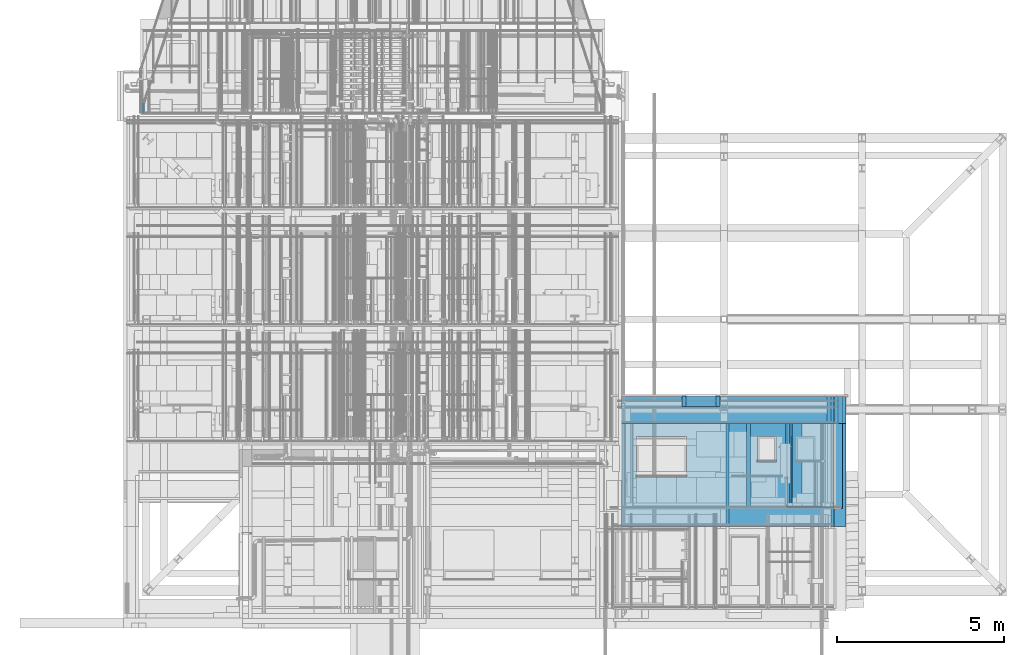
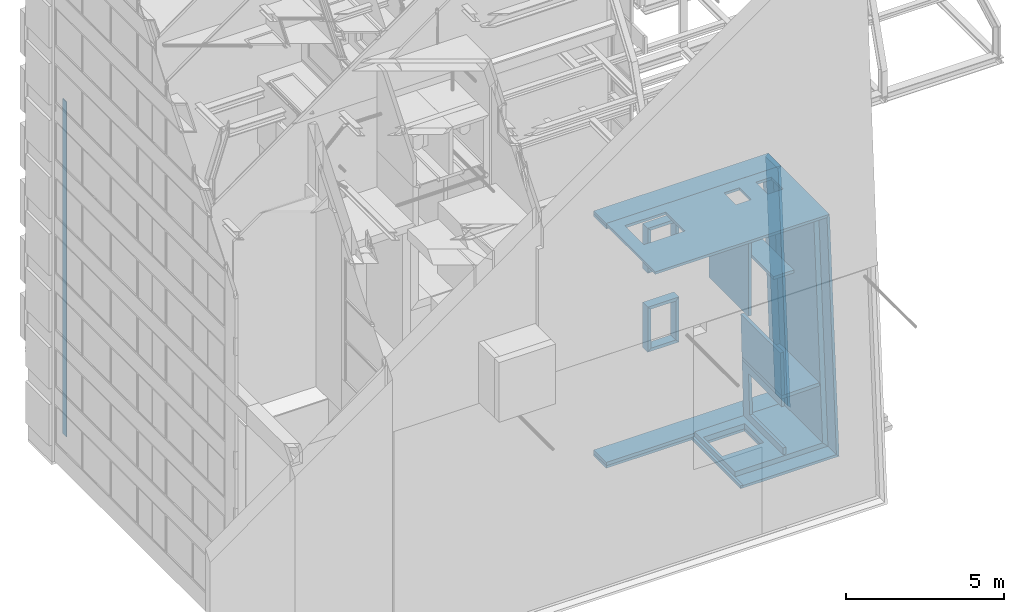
# One storey, part 20 of 583: 26 walls, 7 openings.
"""IFC2X3 building model written with IfcOpenShell, lengths in metres."""

from ifc_helpers import new_model, entity, si_unit, converted_unit, derived_unit, money_unit, direction, frame, frame_2d, origin_with_axes, place, context, subcontext, project, spatial, polyline, rectangle, outline, extrude, material, type_object, element, save


model = new_model("IFC2X3")

# Units and contexts
model_context = context("Model", 3, precision=1e-05, world=origin_with_axes(), true_north=direction((0.0, 1.0)))
body_context = subcontext(model_context, "Body", "Model", "MODEL_VIEW", scale=1.0)
ifc_project = project(units=[si_unit("LENGTHUNIT", "METRE"), si_unit("AREAUNIT", "SQUARE_METRE"), si_unit("VOLUMEUNIT", "CUBIC_METRE"), si_unit("ABSORBEDDOSEUNIT", "GRAY"), si_unit("AMOUNTOFSUBSTANCEUNIT", "MOLE"), si_unit("DOSEEQUIVALENTUNIT", "SIEVERT"), si_unit("ELECTRICCAPACITANCEUNIT", "FARAD"), si_unit("ELECTRICCHARGEUNIT", "COULOMB"), si_unit("ELECTRICCONDUCTANCEUNIT", "SIEMENS"), si_unit("ELECTRICCURRENTUNIT", "AMPERE"), si_unit("ELECTRICRESISTANCEUNIT", "OHM"), si_unit("ELECTRICVOLTAGEUNIT", "VOLT"), si_unit("ENERGYUNIT", "JOULE"), si_unit("FORCEUNIT", "NEWTON"), si_unit("FREQUENCYUNIT", "HERTZ"), si_unit("ILLUMINANCEUNIT", "LUX"), si_unit("INDUCTANCEUNIT", "HENRY"), si_unit("LUMINOUSFLUXUNIT", "LUMEN"), si_unit("LUMINOUSINTENSITYUNIT", "CANDELA"), si_unit("MAGNETICFLUXDENSITYUNIT", "TESLA"), si_unit("MAGNETICFLUXUNIT", "WEBER"), si_unit("MASSUNIT", "GRAM"), converted_unit("PLANEANGLEUNIT", "degree", entity("IfcReal", 0.0174532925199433), si_unit("PLANEANGLEUNIT", "RADIAN"), dimensions=[0, 0, 0, 0, 0, 0, 0]), si_unit("POWERUNIT", "WATT"), si_unit("PRESSUREUNIT", "PASCAL"), si_unit("RADIOACTIVITYUNIT", "BECQUEREL"), si_unit("SOLIDANGLEUNIT", "STERADIAN"), si_unit("THERMODYNAMICTEMPERATUREUNIT", "KELVIN"), si_unit("TIMEUNIT", "SECOND"), derived_unit("ACCELERATIONUNIT", [(si_unit("LENGTHUNIT", "METRE"), 1), (si_unit("TIMEUNIT", "SECOND"), -2)]), derived_unit("ANGULARVELOCITYUNIT", [(converted_unit("PLANEANGLEUNIT", "degree", entity("IfcReal", 0.0174532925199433), si_unit("PLANEANGLEUNIT", "RADIAN"), dimensions=[0, 0, 0, 0, 0, 0, 0]), 1), (si_unit("TIMEUNIT", "SECOND"), -1)]), derived_unit("CURVATUREUNIT", [(converted_unit("PLANEANGLEUNIT", "degree", entity("IfcReal", 0.0174532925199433), si_unit("PLANEANGLEUNIT", "RADIAN"), dimensions=[0, 0, 0, 0, 0, 0, 0]), 1), (si_unit("LENGTHUNIT", "METRE"), -1)]), derived_unit("DYNAMICVISCOSITYUNIT", [(si_unit("PRESSUREUNIT", "PASCAL"), 1), (si_unit("TIMEUNIT", "SECOND"), 1)]), derived_unit("HEATFLUXDENSITYUNIT", [(si_unit("POWERUNIT", "WATT"), 1), (si_unit("LENGTHUNIT", "METRE"), -2)]), derived_unit("HEATINGVALUEUNIT", [(si_unit("ENERGYUNIT", "JOULE"), 1), (si_unit("MASSUNIT", "GRAM"), -1)]), derived_unit("INTEGERCOUNTRATEUNIT", [(si_unit("TIMEUNIT", "SECOND"), -1)]), derived_unit("IONCONCENTRATIONUNIT", [(si_unit("MASSUNIT", "GRAM"), 1), (si_unit("VOLUMEUNIT", "CUBIC_METRE"), -1)]), derived_unit("ISOTHERMALMOISTURECAPACITYUNIT", [(si_unit("VOLUMEUNIT", "CUBIC_METRE"), 1), (si_unit("MASSUNIT", "GRAM"), -1)]), derived_unit("KINEMATICVISCOSITYUNIT", [(si_unit("AREAUNIT", "SQUARE_METRE"), 1), (si_unit("TIMEUNIT", "SECOND"), -1)]), derived_unit("LINEARFORCEUNIT", [(si_unit("FORCEUNIT", "NEWTON"), 1), (si_unit("LENGTHUNIT", "METRE"), -1)]), derived_unit("LINEARMOMENTUNIT", [(si_unit("FORCEUNIT", "NEWTON"), 1), (si_unit("LENGTHUNIT", "METRE"), -1)]), derived_unit("LINEARSTIFFNESSUNIT", [(si_unit("FORCEUNIT", "NEWTON"), 1), (si_unit("LENGTHUNIT", "METRE"), -1)]), derived_unit("LINEARVELOCITYUNIT", [(si_unit("LENGTHUNIT", "METRE"), 1), (si_unit("TIMEUNIT", "SECOND"), -1)]), derived_unit("LUMINOUSINTENSITYDISTRIBUTIONUNIT", [(si_unit("LUMINOUSINTENSITYUNIT", "CANDELA"), 1), (si_unit("LUMINOUSFLUXUNIT", "LUMEN"), -1)]), derived_unit("MASSDENSITYUNIT", [(si_unit("MASSUNIT", "GRAM"), 1), (si_unit("VOLUMEUNIT", "CUBIC_METRE"), -1)]), derived_unit("MASSFLOWRATEUNIT", [(si_unit("MASSUNIT", "GRAM"), 1), (si_unit("TIMEUNIT", "SECOND"), -1)]), derived_unit("MASSPERLENGTHUNIT", [(si_unit("MASSUNIT", "GRAM"), 1), (si_unit("LENGTHUNIT", "METRE"), -1)]), derived_unit("MODULUSOFELASTICITYUNIT", [(si_unit("FORCEUNIT", "NEWTON"), 1), (si_unit("AREAUNIT", "SQUARE_METRE"), -1)]), derived_unit("MODULUSOFLINEARSUBGRADEREACTIONUNIT", [(si_unit("FORCEUNIT", "NEWTON"), 1), (si_unit("LENGTHUNIT", "METRE"), -2)]), derived_unit("MODULUSOFROTATIONALSUBGRADEREACTIONUNIT", [(si_unit("FORCEUNIT", "NEWTON"), 1), (si_unit("LENGTHUNIT", "METRE"), 1)]), derived_unit("MODULUSOFSUBGRADEREACTIONUNIT", [(si_unit("FORCEUNIT", "NEWTON"), 1), (si_unit("VOLUMEUNIT", "CUBIC_METRE"), -1)]), derived_unit("MOISTUREDIFFUSIVITYUNIT", [(si_unit("VOLUMEUNIT", "CUBIC_METRE"), 1), (si_unit("TIMEUNIT", "SECOND"), -1)]), derived_unit("MOLECULARWEIGHTUNIT", [(si_unit("MASSUNIT", "GRAM"), 1), (si_unit("AMOUNTOFSUBSTANCEUNIT", "MOLE"), -1)]), derived_unit("PLANARFORCEUNIT", [(si_unit("FORCEUNIT", "NEWTON"), 1), (si_unit("LENGTHUNIT", "METRE"), -2)]), derived_unit("ROTATIONALFREQUENCYUNIT", [(si_unit("TIMEUNIT", "SECOND"), -1)]), derived_unit("ROTATIONALMASSUNIT", [(si_unit("MASSUNIT", "GRAM"), 1), (si_unit("LENGTHUNIT", "METRE"), 2)]), derived_unit("ROTATIONALSTIFFNESSUNIT", [(si_unit("FORCEUNIT", "NEWTON"), 1), (si_unit("LENGTHUNIT", "METRE"), 1), (converted_unit("PLANEANGLEUNIT", "degree", entity("IfcReal", 0.0174532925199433), si_unit("PLANEANGLEUNIT", "RADIAN"), dimensions=[0, 0, 0, 0, 0, 0, 0]), -1)]), derived_unit("SECTIONAREAINTEGRALUNIT", [(si_unit("LENGTHUNIT", "METRE"), 5)]), derived_unit("SECTIONMODULUSUNIT", [(si_unit("LENGTHUNIT", "METRE"), 3)]), derived_unit("SHEARMODULUSUNIT", [(si_unit("FORCEUNIT", "NEWTON"), 1), (si_unit("AREAUNIT", "SQUARE_METRE"), -1)]), derived_unit("SOUNDPOWERUNIT", [(si_unit("ENERGYUNIT", "JOULE"), 1), (si_unit("TIMEUNIT", "SECOND"), -1)]), derived_unit("SPECIFICHEATCAPACITYUNIT", [(si_unit("FORCEUNIT", "NEWTON"), 1), (si_unit("MASSUNIT", "GRAM"), -1), (si_unit("THERMODYNAMICTEMPERATUREUNIT", "KELVIN"), -1)]), derived_unit("TEMPERATUREGRADIENTUNIT", [(si_unit("THERMODYNAMICTEMPERATUREUNIT", "KELVIN"), 1), (si_unit("LENGTHUNIT", "METRE"), -1)]), derived_unit("THERMALADMITTANCEUNIT", [(si_unit("POWERUNIT", "WATT"), 1), (si_unit("AREAUNIT", "SQUARE_METRE"), -1), (si_unit("THERMODYNAMICTEMPERATUREUNIT", "KELVIN"), -1)]), derived_unit("THERMALCONDUCTANCEUNIT", [(si_unit("POWERUNIT", "WATT"), 1), (si_unit("LENGTHUNIT", "METRE"), -1), (si_unit("THERMODYNAMICTEMPERATUREUNIT", "KELVIN"), -1)]), derived_unit("THERMALEXPANSIONCOEFFICIENTUNIT", [(si_unit("THERMODYNAMICTEMPERATUREUNIT", "KELVIN"), -1)]), derived_unit("THERMALRESISTANCEUNIT", [(si_unit("AREAUNIT", "SQUARE_METRE"), 1), (si_unit("POWERUNIT", "WATT"), -1)]), derived_unit("THERMALTRANSMITTANCEUNIT", [(si_unit("POWERUNIT", "WATT"), 1), (si_unit("AREAUNIT", "SQUARE_METRE"), -1), (si_unit("THERMODYNAMICTEMPERATUREUNIT", "KELVIN"), -1)]), derived_unit("TORQUEUNIT", [(si_unit("FORCEUNIT", "NEWTON"), 1), (si_unit("LENGTHUNIT", "METRE"), 1)]), derived_unit("VAPORPERMEABILITYUNIT", [(si_unit("MASSUNIT", "GRAM"), 1), (si_unit("TIMEUNIT", "SECOND"), -1)]), derived_unit("VOLUMETRICFLOWRATEUNIT", [(si_unit("VOLUMEUNIT", "CUBIC_METRE"), 1), (si_unit("TIMEUNIT", "SECOND"), -1)]), derived_unit("WARPINGCONSTANTUNIT", [(si_unit("LENGTHUNIT", "METRE"), 6)]), derived_unit("WARPINGMOMENTUNIT", [(si_unit("FORCEUNIT", "NEWTON"), 1), (si_unit("LENGTHUNIT", "METRE"), 2)]), money_unit("GBP")], contexts=[model_context])

# Site, building, storey
site_placement = place(None, origin_with_axes())
site = spatial("IfcSite", under=ifc_project, at=site_placement, Name="Site", CompositionType="ELEMENT")
building_placement = place(site_placement, origin_with_axes())
building = spatial("IfcBuilding", under=site, at=building_placement, Name="Building01", CompositionType="ELEMENT")
storey_placement = place(building_placement, frame((0.0, 0.0, 20.78), z_axis=(0.0, 0.0, 1.0), x_axis=(1.0, 0.0, 0.0)))
storey = spatial("IfcBuildingStorey", under=building, at=storey_placement, Name="RL", CompositionType="ELEMENT", Elevation=20.78)

# Wall
ifc_material_1 = material(Name="A_BSUK_WallsExternal_Brick")
wall_type_1 = type_object("IfcWallType", Name="A-Walls-ExternalBrick", PredefinedType="NOTDEFINED")
wall_1_placement = place(storey_placement, frame((21.262425, 2.6, -11.336962), z_axis=(0.0, 1.0, 0.0), x_axis=(0.03707243, 0.0, -0.99931258)))
element("IfcWall", 1, at=wall_1_placement, inside=storey, type_object=wall_type_1, material=ifc_material_1, Name="A-Walls-ExternalBrick", ObjectType="A-Walls-ExternalBrick", context=body_context, shape_type="SweptSolid", body=[
    extrude(outline(polyline([(9.359448, 0.1), (0.096359, 0.1), (0.0, 0.0), (9.463227, 0.0), (9.359448, 0.1)])), origin_with_axes(), (0.0, 0.0, 1.0), 3.085),
])

# Wall, opening
wall_2_placement = place(storey_placement, frame((21.61325, 2.6, -20.793684), z_axis=(0.0, 1.0, 0.0), x_axis=(-1.0, 0.0, 0.0)))
wall_2 = element("IfcWall", 2, at=wall_2_placement, inside=storey, type_object=wall_type_1, material=ifc_material_1, Name="A-Walls-ExternalBrick", ObjectType="A-Walls-ExternalBrick", context=body_context, shape_type="SweptSolid", body=[
    extrude(outline(polyline([(3.493021, 0.1), (0.103779, 0.1), (0.0, 0.0), (3.593021, 0.0), (3.493021, 0.1)])), origin_with_axes(), (0.0, 0.0, 1.0), 3.085),
])
opening_1_placement = place(wall_2_placement, frame((1.899002, 0.0, 1.485), z_axis=(0.0, 0.0, 1.0), x_axis=(1.0, 0.0, 0.0)))
element("IfcOpeningElement", 3, at=opening_1_placement, cuts=wall_2, Name="Opening", ObjectType="Opening", context=body_context, shape_type="SweptSolid", body=[
    extrude(rectangle(XDim=1.2, YDim=1.5, at=frame_2d((-0.75, 0.6), x_axis=(0.0, -1.0))), frame((0.0, 0.0, 0.0), z_axis=(0.0, 1.0, 0.0), x_axis=(-1.0, 0.0, 0.0)), (0.0, 0.0, 1.0), 0.1),
])

# Wall
wall_3_placement = place(storey_placement, frame((18.020229, 2.6, -20.793684), z_axis=(0.0, 1.0, 0.0), x_axis=(0.0, 0.0, 1.0)))
element("IfcWall", 4, at=wall_3_placement, inside=storey, type_object=wall_type_1, material=ifc_material_1, Name="A-Walls-ExternalBrick", ObjectType="A-Walls-ExternalBrick", context=body_context, shape_type="SweptSolid", body=[
    extrude(outline(polyline([(0.114362, 0.1), (0.1, 0.1), (0.0, 0.0), (0.114362, 0.0), (0.114362, 0.1)])), origin_with_axes(), (0.0, 0.0, 1.0), 3.085),
])

# Wall, openings
wall_4_placement = place(storey_placement, frame((21.166066, 2.6, -11.436962), z_axis=(0.0, 1.0, 0.0), x_axis=(-1.0, 0.0, 0.0)))
wall_4 = element("IfcWall", 5, at=wall_4_placement, inside=storey, type_object=wall_type_1, material=ifc_material_1, Name="A-Walls-ExternalBrick", ObjectType="A-Walls-ExternalBrick", context=body_context, shape_type="SweptSolid", body=[
    extrude(outline(polyline([(6.265024, 0.1), (-0.096359, 0.1), (0.0, 0.0), (6.265024, 0.0), (6.265024, 0.1)])), origin_with_axes(), (0.0, 0.0, 1.0), 3.085),
])
opening_2_placement = place(wall_4_placement, frame((4.323276, 0.1, 1.485), z_axis=(0.0, 0.0, 1.0), x_axis=(1.0, 0.0, 0.0)))
element("IfcOpeningElement", 6, at=opening_2_placement, cuts=wall_4, Name="Opening", ObjectType="Opening", context=body_context, shape_type="SweptSolid", body=[
    extrude(rectangle(XDim=1.2, YDim=1.5, at=frame_2d((0.75, 0.6), x_axis=(0.0, -1.0))), frame((0.0, 0.0, 0.0), z_axis=(0.0, -1.0, 0.0), x_axis=(1.0, 0.0, 0.0)), (0.0, 0.0, 1.0), 0.1),
])
opening_3_placement = place(wall_4_placement, frame((1.643772, 0.1, 1.935), z_axis=(0.0, 0.0, 1.0), x_axis=(1.0, 0.0, 0.0)))
element("IfcOpeningElement", 7, at=opening_3_placement, cuts=wall_4, Name="Opening", ObjectType="Opening", context=body_context, shape_type="SweptSolid", body=[
    extrude(rectangle(XDim=0.75, YDim=0.56, at=frame_2d((0.28, 0.375), x_axis=(0.0, -1.0))), frame((0.0, 0.0, 0.0), z_axis=(0.0, -1.0, 0.0), x_axis=(1.0, 0.0, 0.0)), (0.0, 0.0, 1.0), 0.1),
])
opening_4_placement = place(wall_4_placement, frame((0.482163, 0.1, 1.935), z_axis=(0.0, 0.0, 1.0), x_axis=(1.0, 0.0, 0.0)))
element("IfcOpeningElement", 8, at=opening_4_placement, cuts=wall_4, Name="Opening", ObjectType="Opening", context=body_context, shape_type="SweptSolid", body=[
    extrude(rectangle(XDim=0.75, YDim=0.56, at=frame_2d((0.28, 0.375), x_axis=(0.0, -1.0))), frame((0.0, 0.0, 0.0), z_axis=(0.0, -1.0, 0.0), x_axis=(1.0, 0.0, 0.0)), (0.0, 0.0, 1.0), 0.1),
])

# Walls
wall_5_placement = place(storey_placement, frame((14.898004, 5.685, -20.679373), z_axis=(0.0, 1.0, 0.0), x_axis=(1.0, 0.0, 0.0)))
element("IfcWall", 9, at=wall_5_placement, inside=storey, type_object=wall_type_1, material=ifc_material_1, Name="A-Walls-ExternalBrick", ObjectType="A-Walls-ExternalBrick", context=body_context, shape_type="SweptSolid", body=[
    extrude(outline(polyline([(6.714638, 0.1), (0.0, 0.1), (0.0, 0.0), (6.61086, 0.0), (6.714638, 0.1)])), origin_with_axes(), (0.0, 0.0, 1.0), 0.8),
])
wall_6_placement = place(storey_placement, frame((21.508863, 5.685, -20.679373), z_axis=(0.0, 1.0, 0.0), x_axis=(-0.03707143, 0.0, 0.99931262)))
element("IfcWall", 10, at=wall_6_placement, inside=storey, type_object=wall_type_1, material=ifc_material_1, Name="A-Walls-ExternalBrick", ObjectType="A-Walls-ExternalBrick", context=body_context, shape_type="SweptSolid", body=[
    extrude(outline(polyline([(9.345366, 0.1), (-0.103778, 0.1), (0.0, 0.0), (9.249004, 0.0), (9.345366, 0.1)])), origin_with_axes(), (0.0, 0.0, 1.0), 0.8),
])
wall_7_placement = place(storey_placement, frame((21.16599, 5.685, -11.436727), z_axis=(0.0, 1.0, 0.0), x_axis=(-1.0, 0.0, -3.756e-05)))
element("IfcWall", 11, at=wall_7_placement, inside=storey, type_object=wall_type_1, material=ifc_material_1, Name="A-Walls-ExternalBrick", ObjectType="A-Walls-ExternalBrick", context=body_context, shape_type="SweptSolid", body=[
    extrude(outline(polyline([(-0.096363, 0.1), (0.0, 0.0), (6.268329, 0.0), (6.268329, 0.1), (-0.096363, 0.1)])), origin_with_axes(), (0.0, 0.0, 1.0), 0.8),
])
ifc_material_2 = material(Name="A_BSUK_WallsExternal_Block")
wall_type_2 = type_object("IfcWallType", Name="A-Walls-ExternalBlock", PredefinedType="NOTDEFINED")
wall_8_placement = place(storey_placement, frame((21.166058, 3.135, -11.436735), z_axis=(0.0, 1.0, 0.0), x_axis=(0.03707243, 0.0, -0.99931258)))
element("IfcWall", 12, at=wall_8_placement, inside=storey, type_object=wall_type_2, material=ifc_material_2, Name="A-Walls-ExternalBlock", ObjectType="A-Walls-ExternalBlock", context=body_context, shape_type="SweptSolid", body=[
    extrude(outline(polyline([(9.061665, 0.187), (0.182193, 0.187), (0.0, 0.0), (9.263736, 0.0), (9.061665, 0.187)])), origin_with_axes(), (0.0, 0.0, 1.0), 2.55),
])

# Wall, opening
wall_9_placement = place(storey_placement, frame((18.120222, 3.135, -20.499103), z_axis=(0.0, 1.0, 0.0), x_axis=(1.0, 0.0, 0.0)))
wall_9 = element("IfcWall", 13, at=wall_9_placement, inside=storey, type_object=wall_type_2, material=ifc_material_2, Name="A-Walls-ExternalBlock", ObjectType="A-Walls-ExternalBlock", context=body_context, shape_type="SweptSolid", body=[
    extrude(outline(polyline([(3.389265, 0.195), (0.0, 0.195), (0.0, 0.0), (3.194902, 0.0), (3.389265, 0.195)])), origin_with_axes(), (0.0, 0.0, 1.0), 2.55),
])
opening_5_placement = place(wall_9_placement, frame((0.094026, 0.195, 0.95), z_axis=(0.0, 0.0, 1.0), x_axis=(1.0, 0.0, 0.0)))
element("IfcOpeningElement", 14, at=opening_5_placement, cuts=wall_9, Name="Opening", ObjectType="Opening", context=body_context, shape_type="SweptSolid", body=[
    extrude(rectangle(XDim=1.2, YDim=1.5, at=frame_2d((0.75, 0.6), x_axis=(0.0, -1.0))), frame((0.0, 0.0, 0.0), z_axis=(0.0, -1.0, 0.0), x_axis=(1.0, 0.0, 0.0)), (0.0, 0.0, 1.0), 0.195),
])

# Walls
wall_10_placement = place(storey_placement, frame((14.898004, 5.685, -20.554373), z_axis=(0.0, 1.0, 0.0), x_axis=(1.0, 0.0, 0.0)))
element("IfcWall", 15, at=wall_10_placement, inside=storey, type_object=wall_type_2, material=ifc_material_2, Name="A-Walls-ExternalBlock", ObjectType="A-Walls-ExternalBlock", context=body_context, shape_type="SweptSolid", body=[
    extrude(outline(polyline([(6.61086, 0.125), (0.0, 0.125), (0.0, 0.0), (6.481137, 0.0), (6.61086, 0.125)])), origin_with_axes(), (0.0, 0.0, 1.0), 0.8),
])
wall_11_placement = place(storey_placement, frame((21.37914, 5.685, -20.554373), z_axis=(0.0, 1.0, 0.0), x_axis=(-0.03707143, 0.0, 0.99931262)))
element("IfcWall", 16, at=wall_11_placement, inside=storey, type_object=wall_type_2, material=ifc_material_2, Name="A-Walls-ExternalBlock", ObjectType="A-Walls-ExternalBlock", context=body_context, shape_type="SweptSolid", body=[
    extrude(outline(polyline([(9.126502, 0.125), (-0.129723, 0.125), (0.0, 0.0), (9.006049, 0.0), (9.126502, 0.125)])), origin_with_axes(), (0.0, 0.0, 1.0), 0.8),
])
wall_12_placement = place(storey_placement, frame((21.045273, 5.685, -11.554514), z_axis=(0.0, 1.0, 0.0), x_axis=(-1.0, 0.0, -3.756e-05)))
element("IfcWall", 17, at=wall_12_placement, inside=storey, type_object=wall_type_2, material=ifc_material_2, Name="A-Walls-ExternalBlock", ObjectType="A-Walls-ExternalBlock", context=body_context, shape_type="SweptSolid", body=[
    extrude(outline(polyline([(-0.120453, 0.125), (0.0, 0.0), (6.147608, 0.0), (6.147608, 0.125), (-0.120453, 0.125)])), origin_with_axes(), (0.0, 0.0, 1.0), 0.8),
])
wall_13_placement = place(storey_placement, frame((16.82, 6.185, -17.122586), z_axis=(0.0, 1.0, 0.0), x_axis=(1.0, 0.0, 0.0)))
element("IfcWall", 18, at=wall_13_placement, inside=storey, type_object=wall_type_2, material=ifc_material_2, Name="A-Walls-ExternalBlock", ObjectType="A-Walls-ExternalBlock", context=body_context, shape_type="SweptSolid", body=[
    extrude(outline(polyline([(1.02, 0.12), (-0.12, 0.12), (0.0, 0.0), (0.9, 0.0), (1.02, 0.12)])), origin_with_axes(), (0.0, 0.0, 1.0), 0.325),
])
wall_14_placement = place(storey_placement, frame((17.72, 6.185, -17.122586), z_axis=(0.0, 1.0, 0.0), x_axis=(0.0, 0.0, 1.0)))
element("IfcWall", 19, at=wall_14_placement, inside=storey, type_object=wall_type_2, material=ifc_material_2, Name="A-Walls-ExternalBlock", ObjectType="A-Walls-ExternalBlock", context=body_context, shape_type="SweptSolid", body=[
    extrude(outline(polyline([(1.62, 0.12), (-0.12, 0.12), (0.0, 0.0), (1.5, 0.0), (1.62, 0.12)])), origin_with_axes(), (0.0, 0.0, 1.0), 0.325),
])
wall_15_placement = place(storey_placement, frame((17.72, 6.185, -15.622586), z_axis=(0.0, 1.0, 0.0), x_axis=(-1.0, 0.0, 0.0)))
element("IfcWall", 20, at=wall_15_placement, inside=storey, type_object=wall_type_2, material=ifc_material_2, Name="A-Walls-ExternalBlock", ObjectType="A-Walls-ExternalBlock", context=body_context, shape_type="SweptSolid", body=[
    extrude(outline(polyline([(1.02, 0.12), (-0.12, 0.12), (0.0, 0.0), (0.9, 0.0), (1.02, 0.12)])), origin_with_axes(), (0.0, 0.0, 1.0), 0.325),
])
wall_16_placement = place(storey_placement, frame((16.82, 6.185, -15.622586), z_axis=(0.0, 1.0, 0.0), x_axis=(0.0, 0.0, -1.0)))
element("IfcWall", 21, at=wall_16_placement, inside=storey, type_object=wall_type_2, material=ifc_material_2, Name="A-Walls-ExternalBlock", ObjectType="A-Walls-ExternalBlock", context=body_context, shape_type="SweptSolid", body=[
    extrude(outline(polyline([(1.62, 0.12), (-0.12, 0.12), (0.0, 0.0), (1.5, 0.0), (1.62, 0.12)])), origin_with_axes(), (0.0, 0.0, 1.0), 0.325),
])
wall_17_placement = place(storey_placement, frame((17.72, 6.185, -12.582586), z_axis=(0.0, 1.0, 0.0), x_axis=(-1.0, 0.0, 0.0)))
element("IfcWall", 22, at=wall_17_placement, inside=storey, type_object=wall_type_2, material=ifc_material_2, Name="A-Walls-ExternalBlock", ObjectType="A-Walls-ExternalBlock", context=body_context, shape_type="SweptSolid", body=[
    extrude(outline(polyline([(1.02, 0.12), (-0.12, 0.12), (0.0, 0.0), (0.9, 0.0), (1.02, 0.12)])), origin_with_axes(), (0.0, 0.0, 1.0), 0.325),
])
wall_18_placement = place(storey_placement, frame((16.82, 6.185, -12.582586), z_axis=(0.0, 1.0, 0.0), x_axis=(0.0, 0.0, -1.0)))
element("IfcWall", 23, at=wall_18_placement, inside=storey, type_object=wall_type_2, material=ifc_material_2, Name="A-Walls-ExternalBlock", ObjectType="A-Walls-ExternalBlock", context=body_context, shape_type="SweptSolid", body=[
    extrude(outline(polyline([(1.62, 0.12), (-0.12, 0.12), (0.0, 0.0), (1.5, 0.0), (1.62, 0.12)])), origin_with_axes(), (0.0, 0.0, 1.0), 0.325),
])
wall_19_placement = place(storey_placement, frame((16.82, 6.185, -14.082586), z_axis=(0.0, 1.0, 0.0), x_axis=(1.0, 0.0, 0.0)))
element("IfcWall", 24, at=wall_19_placement, inside=storey, type_object=wall_type_2, material=ifc_material_2, Name="A-Walls-ExternalBlock", ObjectType="A-Walls-ExternalBlock", context=body_context, shape_type="SweptSolid", body=[
    extrude(outline(polyline([(1.02, 0.12), (-0.12, 0.12), (0.0, 0.0), (0.9, 0.0), (1.02, 0.12)])), origin_with_axes(), (0.0, 0.0, 1.0), 0.325),
])
wall_20_placement = place(storey_placement, frame((17.72, 6.185, -14.082586), z_axis=(0.0, 1.0, 0.0), x_axis=(0.0, 0.0, 1.0)))
element("IfcWall", 25, at=wall_20_placement, inside=storey, type_object=wall_type_2, material=ifc_material_2, Name="A-Walls-ExternalBlock", ObjectType="A-Walls-ExternalBlock", context=body_context, shape_type="SweptSolid", body=[
    extrude(outline(polyline([(1.62, 0.12), (-0.12, 0.12), (0.0, 0.0), (1.5, 0.0), (1.62, 0.12)])), origin_with_axes(), (0.0, 0.0, 1.0), 0.325),
])
ifc_material_3 = material(Name="A_BSUK_WallsInternal")
wall_type_3 = type_object("IfcWallType", Name="A-Walls-Internal", PredefinedType="NOTDEFINED")
wall_21_placement = place(storey_placement, frame((21.233862, 3.185, -18.30863), z_axis=(0.0, 1.0, 0.0), x_axis=(-0.99990971, 0.0, -0.01343765)))
element("IfcWall", 26, at=wall_21_placement, inside=storey, type_object=wall_type_3, material=ifc_material_3, Name="A-Walls-Internal", ObjectType="A-Walls-Internal", context=body_context, shape_type="SweptSolid", body=[
    extrude(outline(polyline([(1.389679, 0.13), (0.003074, 0.13), (0.0, 0.0), (1.388094, 0.0), (1.389679, 0.13)])), origin_with_axes(), (0.0, 0.0, 1.0), 2.5),
])

# Wall, opening
wall_22_placement = place(storey_placement, frame((19.90157, 3.185, -20.499103), z_axis=(0.0, 1.0, 0.0), x_axis=(-0.02562735, 0.0, 0.99967157)))
wall_22 = element("IfcWall", 27, at=wall_22_placement, inside=storey, type_object=wall_type_3, material=ifc_material_3, Name="A-Walls-Internal", ObjectType="A-Walls-Internal", context=body_context, shape_type="SweptSolid", body=[
    extrude(outline(polyline([(2.171217, 0.108), (-0.002769, 0.108), (0.0, 0.0), (2.172534, 0.0), (2.171217, 0.108)])), origin_with_axes(), (0.0, 0.0, 1.0), 2.5),
])
opening_6_placement = place(wall_22_placement, frame((0.266957, 0.108, 0.0), z_axis=(0.0, 0.0, 1.0), x_axis=(1.0, 0.0, 0.0)))
element("IfcOpeningElement", 28, at=opening_6_placement, cuts=wall_22, Name="Opening", ObjectType="Opening", context=body_context, shape_type="SweptSolid", body=[
    extrude(rectangle(XDim=2.1, YDim=1.604005, at=frame_2d((0.802002, 1.05), x_axis=(0.0, -1.0))), frame((0.0, 0.0, 0.0), z_axis=(0.0, -1.0, 0.0), x_axis=(1.0, 0.0, 0.0)), (0.00237186, 0.0, 0.99999719), 0.108),
])

# Wall
wall_23_placement = place(storey_placement, frame((19.842562, 3.185, -18.197316), z_axis=(0.0, 1.0, 0.0), x_axis=(-0.02562735, 0.0, 0.99967157)))
element("IfcWall", 29, at=wall_23_placement, inside=storey, type_object=wall_type_3, material=ifc_material_3, Name="A-Walls-Internal", ObjectType="A-Walls-Internal", context=body_context, shape_type="SweptSolid", body=[
    extrude(outline(polyline([(-0.001463, 0.12), (0.0, 0.0), (1.657189, 0.0), (1.657189, 0.12), (-0.001463, 0.12)])), origin_with_axes(), (0.0, 0.0, 1.0), 2.5),
])

# Wall, opening
wall_24_placement = place(storey_placement, frame((18.752607, 3.185, -13.504034), z_axis=(0.0, 1.0, 0.0), x_axis=(0.99999629, 0.0, -0.00272299)))
wall_24 = element("IfcWall", 30, at=wall_24_placement, inside=storey, type_object=wall_type_3, material=ifc_material_3, Name="A-Walls-Internal", ObjectType="A-Walls-Internal", context=body_context, shape_type="SweptSolid", body=[
    extrude(outline(polyline([(0.000308, 0.113), (0.0, 0.0), (1.549119, 0.0), (1.549119, 0.113), (0.000308, 0.113)])), origin_with_axes(), (0.0, 0.0, 1.0), 2.5),
])
opening_7_placement = place(wall_24_placement, frame((-0.01419, 0.113, 0.0), z_axis=(0.0, 0.0, 1.0), x_axis=(1.0, 0.0, 0.0)))
element("IfcOpeningElement", 31, at=opening_7_placement, cuts=wall_24, Name="Opening", ObjectType="Opening", context=body_context, shape_type="SweptSolid", body=[
    extrude(rectangle(XDim=2.1, YDim=0.814003, at=frame_2d((0.407002, 1.05), x_axis=(0.0, -1.0))), frame((0.0, 0.0, 0.0), z_axis=(0.0, -1.0, 0.0), x_axis=(1.0, 0.0, 0.0)), (-0.00272299, 0.0, 0.99999629), 0.113),
])

# Walls
wall_25_placement = place(storey_placement, frame((18.639607, 3.185, -14.71757), z_axis=(0.0, 1.0, 0.0), x_axis=(0.0, 0.0, 1.0)))
element("IfcWall", 32, at=wall_25_placement, inside=storey, type_object=wall_type_3, material=ifc_material_3, Name="A-Walls-Internal", ObjectType="A-Walls-Internal", context=body_context, shape_type="SweptSolid", body=[
    extrude(rectangle(XDim=3.091835, YDim=0.113, at=frame_2d((1.545917, 0.0565), x_axis=(-1.0, 0.0))), origin_with_axes(), (0.0, 0.0, 1.0), 2.5),
])
wall_26_placement = place(storey_placement, frame((0.5788, 14.98, -20.2012), z_axis=(0.0, 1.0, 0.0), x_axis=(0.0, 0.0, 1.0)))
element("IfcWall", 33, at=wall_26_placement, inside=storey, type_object=wall_type_3, material=ifc_material_3, Name="7C", ObjectType="A-Walls-Internal", context=body_context, shape_type="SweptSolid", body=[
    extrude(outline(polyline([(0.025, 0.025), (0.0, 0.0), (12.9112, 0.0), (12.9112, 0.025), (0.025, 0.025)])), origin_with_axes(), (0.0, 0.0, 1.0), 0.25),
])

save(model, "model.ifc")
